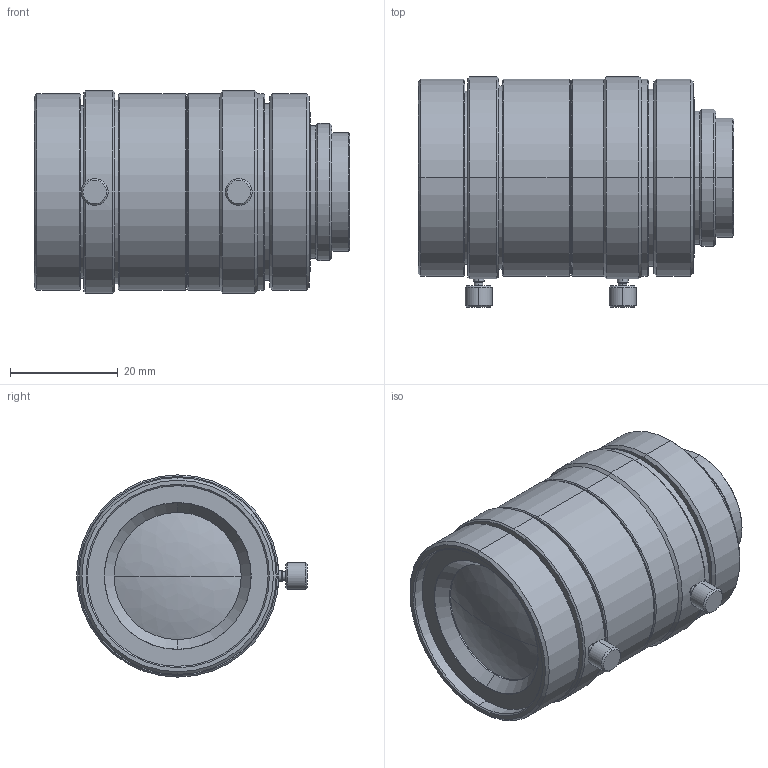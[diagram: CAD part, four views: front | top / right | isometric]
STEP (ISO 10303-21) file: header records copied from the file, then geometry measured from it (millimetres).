
FILE_DESCRIPTION (( 'STEP AP203' ), '1' );
FILE_NAME ('VS-HVA1226.STEP', '2022-03-22T06:58:28', ( '' ), ( '' ), 'SwSTEP 2.0', 'SolidWorks 2021', '' );
FILE_SCHEMA (( 'CONFIG_CONTROL_DESIGN' ));
Length unit declared in the file: millimetre
Products named in the file (1): VS-HVA1226
Bounding box: 58.49 x 42.8 x 37.5 mm (x, y, z)
Volume: 54120.2 mm3; surface area: 10650.2 mm2
Topology: 1 solids, 1 shells, 121 faces, 244 edges, 141 vertices
Faces by surface type: cone 56, cylinder 44, plane 19, bspline 2
Entity records: 3301 total; most frequent: CARTESIAN_POINT 625, DIRECTION 612, ORIENTED_EDGE 484, AXIS2_PLACEMENT_3D 256, EDGE_CURVE 242, VERTEX_POINT 141, EDGE_LOOP 139, CIRCLE 136
